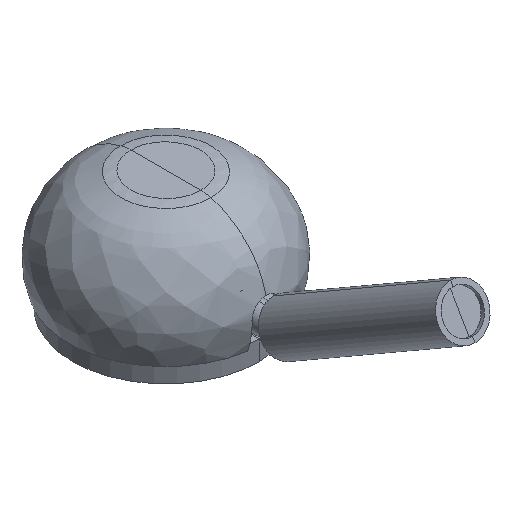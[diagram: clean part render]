
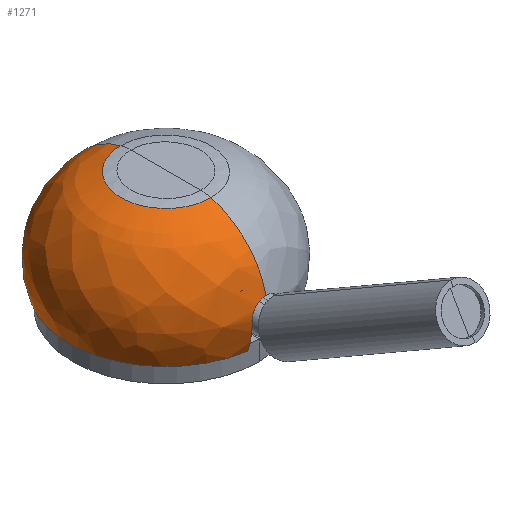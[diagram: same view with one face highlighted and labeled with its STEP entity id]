
A CAD part, isometric view. The second image highlights one B-rep face of the part: STEP entity #1271.
In plain terms, the highlighted free-form (B-spline) face has degree [2, 2] with [5, 5] control points.
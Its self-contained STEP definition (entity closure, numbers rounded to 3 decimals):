
#24=B_SPLINE_CURVE_WITH_KNOTS('',3,(#2110,#2111,#2112,#2113,#2114,#2115,
#2116,#2117,#2118,#2119,#2120,#2121),.UNSPECIFIED.,.F.,.F.,(4,2,2,2,2,4),
(56.85,58.947,62.531,66.114,69.698,
70.776),.UNSPECIFIED.);
#29=B_SPLINE_CURVE_WITH_KNOTS('',3,(#2198,#2199,#2200,#2201,#2202,#2203,
#2204,#2205,#2206,#2207,#2208,#2209,#2210,#2211),.UNSPECIFIED.,.F.,.F.,
(4,2,2,2,2,2,4),(22.523,23.67,26.648,29.593,
31.937,33.538,34.34),.UNSPECIFIED.);
#30=B_SPLINE_CURVE_WITH_KNOTS('',3,(#2239,#2240,#2241,#2242,#2243,#2244,
#2245,#2246),.UNSPECIFIED.,.F.,.F.,(4,1,1,1,1,4),(0.,0.2,0.4,0.6,0.8,1.),
 .UNSPECIFIED.);
#50=(
BOUNDED_SURFACE()
B_SPLINE_SURFACE(2,2,((#2212,#2213,#2214,#2215,#2216),(#2217,#2218,#2219,
#2220,#2221),(#2222,#2223,#2224,#2225,#2226),(#2227,#2228,#2229,#2230,#2231),
(#2232,#2233,#2234,#2235,#2236)),.UNSPECIFIED.,.F.,.F.,.F.)
B_SPLINE_SURFACE_WITH_KNOTS((3,2,3),(3,2,3),(-0.349,0.483,
1.316),(-1.571,0.,1.571),
 .UNSPECIFIED.)
GEOMETRIC_REPRESENTATION_ITEM()
RATIONAL_B_SPLINE_SURFACE(((1.,0.707,1.,0.707,1.),
(0.915,0.647,0.915,0.647,
0.915),(1.,0.707,1.,0.707,1.),(0.915,
0.647,0.915,0.647,0.915),
(1.,0.707,1.,0.707,1.)))
REPRESENTATION_ITEM('')
SURFACE()
);
#147=FACE_OUTER_BOUND('',#240,.T.);
#240=EDGE_LOOP('',(#967,#968,#969,#970,#971,#972));
#332=CIRCLE('',#1406,39.156);
#333=CIRCLE('',#1407,49.943);
#334=CIRCLE('',#1408,39.156);
#566=VERTEX_POINT('',#2106);
#568=VERTEX_POINT('',#2109);
#575=VERTEX_POINT('',#2183);
#576=VERTEX_POINT('',#2237);
#577=VERTEX_POINT('',#2238);
#578=VERTEX_POINT('',#2247);
#702=EDGE_CURVE('',#568,#566,#24,.T.);
#712=EDGE_CURVE('',#566,#575,#29,.T.);
#713=EDGE_CURVE('',#576,#577,#30,.T.);
#714=EDGE_CURVE('',#578,#576,#332,.T.);
#715=EDGE_CURVE('',#568,#578,#333,.T.);
#716=EDGE_CURVE('',#577,#575,#334,.T.);
#967=ORIENTED_EDGE('',*,*,#713,.F.);
#968=ORIENTED_EDGE('',*,*,#714,.F.);
#969=ORIENTED_EDGE('',*,*,#715,.F.);
#970=ORIENTED_EDGE('',*,*,#702,.T.);
#971=ORIENTED_EDGE('',*,*,#712,.T.);
#972=ORIENTED_EDGE('',*,*,#716,.F.);
#1271=ADVANCED_FACE('',(#147),#50,.F.);
#1406=AXIS2_PLACEMENT_3D('',#2248,#1691,#1692);
#1407=AXIS2_PLACEMENT_3D('',#2249,#1693,#1694);
#1408=AXIS2_PLACEMENT_3D('',#2250,#1695,#1696);
#1691=DIRECTION('center_axis',(-1.,0.,0.));
#1692=DIRECTION('ref_axis',(0.,-1.,0.));
#1693=DIRECTION('center_axis',(0.,0.,
-1.));
#1694=DIRECTION('ref_axis',(1.,0.,0.));
#1695=DIRECTION('center_axis',(-1.,0.,0.));
#1696=DIRECTION('ref_axis',(0.,1.,0.));
#2106=CARTESIAN_POINT('',(7.5,51.754,24.5));
#2109=CARTESIAN_POINT('',(7.5,49.377,10.));
#2110=CARTESIAN_POINT('Ctrl Pts',(7.5,49.377,10.));
#2111=CARTESIAN_POINT('Ctrl Pts',(7.5,49.627,10.678));
#2112=CARTESIAN_POINT('Ctrl Pts',(7.5,49.863,11.378));
#2113=CARTESIAN_POINT('Ctrl Pts',(7.5,50.454,13.312));
#2114=CARTESIAN_POINT('Ctrl Pts',(7.5,50.773,14.577));
#2115=CARTESIAN_POINT('Ctrl Pts',(7.5,51.281,17.132));
#2116=CARTESIAN_POINT('Ctrl Pts',(7.5,51.469,18.423));
#2117=CARTESIAN_POINT('Ctrl Pts',(7.5,51.714,20.964));
#2118=CARTESIAN_POINT('Ctrl Pts',(7.5,51.77,22.213));
#2119=CARTESIAN_POINT('Ctrl Pts',(7.5,51.77,23.767));
#2120=CARTESIAN_POINT('Ctrl Pts',(7.5,51.765,24.132));
#2121=CARTESIAN_POINT('Ctrl Pts',(7.5,51.754,24.5));
#2183=CARTESIAN_POINT('',(0.,51.356,32.));
#2198=CARTESIAN_POINT('Ctrl Pts',(7.5,51.754,24.5));
#2199=CARTESIAN_POINT('Ctrl Pts',(7.5,51.744,24.881));
#2200=CARTESIAN_POINT('Ctrl Pts',(7.471,51.732,25.261));
#2201=CARTESIAN_POINT('Ctrl Pts',(7.262,51.683,26.62));
#2202=CARTESIAN_POINT('Ctrl Pts',(6.919,51.64,27.561));
#2203=CARTESIAN_POINT('Ctrl Pts',(5.891,51.549,29.244));
#2204=CARTESIAN_POINT('Ctrl Pts',(5.221,51.502,29.973));
#2205=CARTESIAN_POINT('Ctrl Pts',(3.8,51.431,31.013));
#2206=CARTESIAN_POINT('Ctrl Pts',(3.101,51.404,31.373));
#2207=CARTESIAN_POINT('Ctrl Pts',(1.853,51.373,31.787));
#2208=CARTESIAN_POINT('Ctrl Pts',(1.33,51.364,31.9));
#2209=CARTESIAN_POINT('Ctrl Pts',(0.534,51.357,31.986));
#2210=CARTESIAN_POINT('Ctrl Pts',(0.267,51.356,32.));
#2211=CARTESIAN_POINT('Ctrl Pts',(0.,51.356,
32.));
#2212=CARTESIAN_POINT('Ctrl Pts',(0.,-49.943,
10.));
#2213=CARTESIAN_POINT('Ctrl Pts',(49.943,-49.943,10.));
#2214=CARTESIAN_POINT('Ctrl Pts',(49.943,0.,
10.));
#2215=CARTESIAN_POINT('Ctrl Pts',(49.943,49.943,10.));
#2216=CARTESIAN_POINT('Ctrl Pts',(0.,49.943,
10.));
#2217=CARTESIAN_POINT('Ctrl Pts',(0.,-55.873,
26.271));
#2218=CARTESIAN_POINT('Ctrl Pts',(55.873,-55.873,26.271));
#2219=CARTESIAN_POINT('Ctrl Pts',(55.873,0.,
26.271));
#2220=CARTESIAN_POINT('Ctrl Pts',(55.873,55.873,26.271));
#2221=CARTESIAN_POINT('Ctrl Pts',(0.,55.873,
26.271));
#2222=CARTESIAN_POINT('Ctrl Pts',(0.,-47.825,
41.606));
#2223=CARTESIAN_POINT('Ctrl Pts',(47.825,-47.825,41.606));
#2224=CARTESIAN_POINT('Ctrl Pts',(47.825,0.,
41.606));
#2225=CARTESIAN_POINT('Ctrl Pts',(47.825,47.825,41.606));
#2226=CARTESIAN_POINT('Ctrl Pts',(0.,47.825,
41.606));
#2227=CARTESIAN_POINT('Ctrl Pts',(0.,-39.776,
56.94));
#2228=CARTESIAN_POINT('Ctrl Pts',(39.776,-39.776,56.94));
#2229=CARTESIAN_POINT('Ctrl Pts',(39.776,0.,
56.94));
#2230=CARTESIAN_POINT('Ctrl Pts',(39.776,39.776,56.94));
#2231=CARTESIAN_POINT('Ctrl Pts',(0.,39.776,
56.94));
#2232=CARTESIAN_POINT('Ctrl Pts',(0.,-23.016,
61.302));
#2233=CARTESIAN_POINT('Ctrl Pts',(23.016,-23.016,61.302));
#2234=CARTESIAN_POINT('Ctrl Pts',(23.016,0.,
61.302));
#2235=CARTESIAN_POINT('Ctrl Pts',(23.016,23.016,61.302));
#2236=CARTESIAN_POINT('Ctrl Pts',(0.,23.016,
61.302));
#2237=CARTESIAN_POINT('',(0.,-23.056,61.292));
#2238=CARTESIAN_POINT('',(0.,23.056,61.292));
#2239=CARTESIAN_POINT('Ctrl Pts',(0.,-23.056,
61.292));
#2240=CARTESIAN_POINT('Ctrl Pts',(4.953,-23.226,61.292));
#2241=CARTESIAN_POINT('Ctrl Pts',(14.415,-19.84,61.292));
#2242=CARTESIAN_POINT('Ctrl Pts',(23.43,-7.636,61.292));
#2243=CARTESIAN_POINT('Ctrl Pts',(23.43,7.636,61.292));
#2244=CARTESIAN_POINT('Ctrl Pts',(14.415,19.84,61.292));
#2245=CARTESIAN_POINT('Ctrl Pts',(4.953,23.226,61.292));
#2246=CARTESIAN_POINT('Ctrl Pts',(0.,23.056,
61.292));
#2247=CARTESIAN_POINT('',(0.,-49.943,10.));
#2248=CARTESIAN_POINT('Origin',(0.,-13.154,
23.408));
#2249=CARTESIAN_POINT('Origin',(0.,0.,
10.));
#2250=CARTESIAN_POINT('Origin',(0.,13.154,
23.408));
